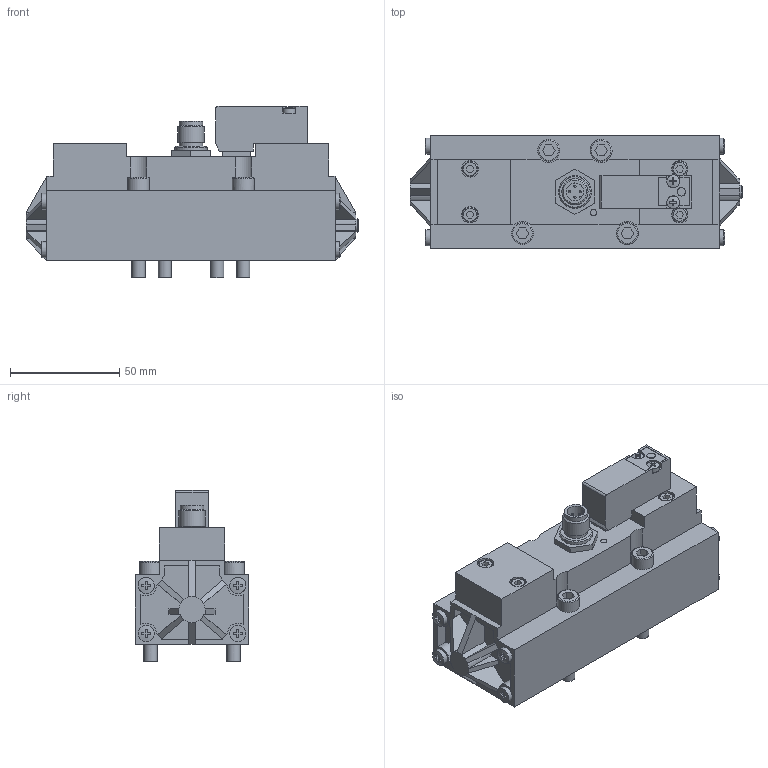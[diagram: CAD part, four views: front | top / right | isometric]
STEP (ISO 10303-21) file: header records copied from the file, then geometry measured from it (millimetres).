
FILE_DESCRIPTION((''),'2;1');
FILE_NAME('I:\Area Tecnica\Disegni\VARIE-3D\Componenti\ISO\ISO-M12\1112_52_3_6_12P.stp','2014-03-18T13:49:41',('valotma1'),(''),'Autodesk Inventor 2013','Autodesk Inventor 2013','');
FILE_SCHEMA(('AUTOMOTIVE_DESIGN { 1 0 10303 214 1 1 1 1 }'));
Length unit declared in the file: millimetre
Products named in the file (3): 1112_52_3_6_12P; 1112_52_3_6; M15P12P_
Assembly tree (2 placements, depth 2):
  1112_52_3_6_12P
    1112_52_3_6
    M15P12P_
Bounding box: 152 x 52 x 78.7 mm (x, y, z)
Volume: 302957.2 mm3; surface area: 45593.1 mm2
Topology: 3 solids, 3 shells, 475 faces, 1221 edges, 801 vertices
Faces by surface type: plane 370, cylinder 78, torus 8, cone 7, sphere 6, bspline 6
Full cylindrical faces by diameter (mm): 1 x4, 2 x5, 3 x2, 3.1 x2, 3.9 x1, 5.8 x2, 6 x5, 7 x4, 7.4 x8, 7.5 x4, 10 x4, 10.7 x2, 12 x1, 15 x1
Entity records: 14370 total; most frequent: CARTESIAN_POINT 2808, ORIENTED_EDGE 2258, DIRECTION 2198, EDGE_CURVE 1129, VECTOR 864, LINE 864, VERTEX_POINT 779, AXIS2_PLACEMENT_3D 667
